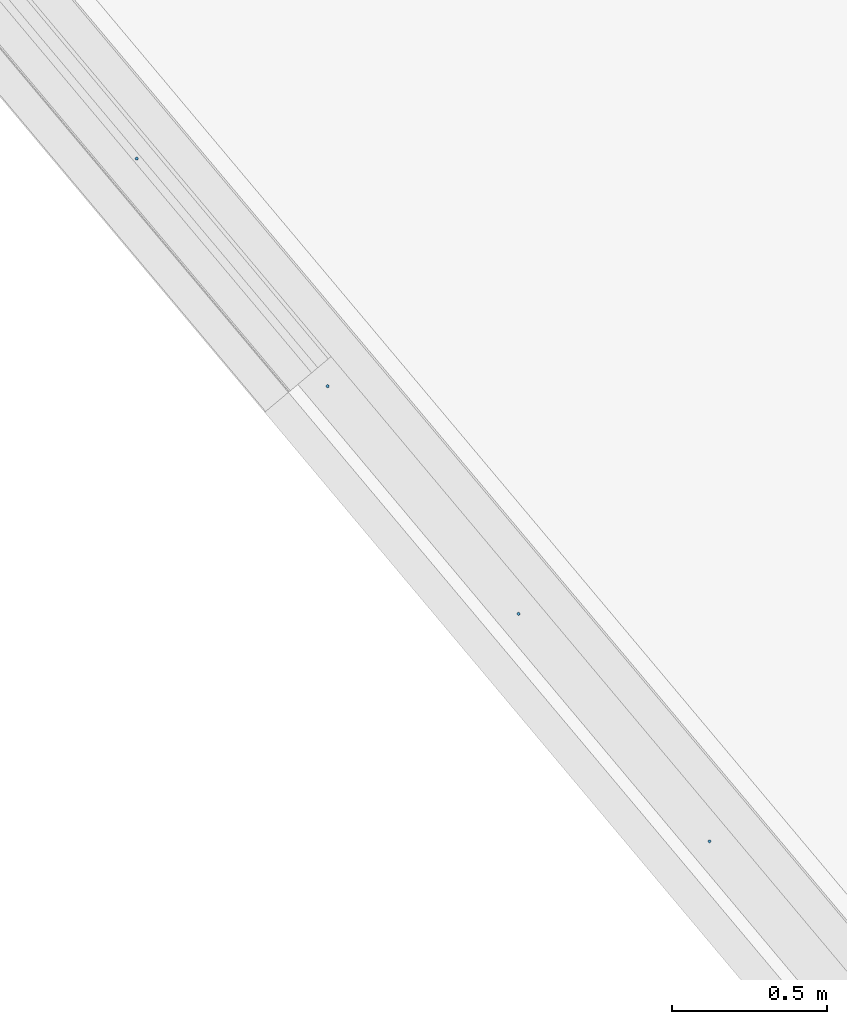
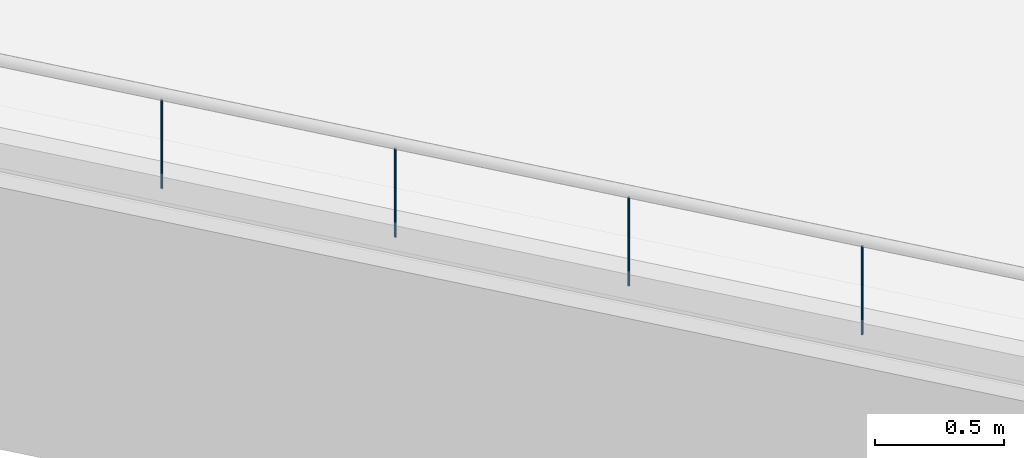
# One storey, part 9 of 321: 4 members, 1 element without a shape of its own.
"""IFC2X3 building model written with IfcOpenShell, lengths in millimetres."""

from ifc_helpers import new_model, entity, si_unit, converted_unit, derived_unit, money_unit, direction, frame, origin_with_axes, place, context, subcontext, project, spatial, faceted_brep, source, transform, mapped, material, type_object, type_shapes, element, aggregate, save


model = new_model("IFC2X3")

# Units and contexts
model_context = context("Model", 3, precision=0.01, world=origin_with_axes(), true_north=direction((0.0, 1.0)))
plan_context = context("Plan", 3, precision=0.01, world=origin_with_axes(), true_north=direction((0.0, 1.0)))
body_context = subcontext(model_context, "Body", "Model", "MODEL_VIEW")
ifc_project = project(units=[si_unit("LENGTHUNIT", "METRE", prefix="MILLI"), si_unit("AREAUNIT", "SQUARE_METRE"), si_unit("VOLUMEUNIT", "CUBIC_METRE"), converted_unit("PLANEANGLEUNIT", "DEGREE", entity("IfcPlaneAngleMeasure", 0.0174532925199), si_unit("PLANEANGLEUNIT", "RADIAN"), dimensions=[0, 0, 0, 0, 0, 0, 0]), money_unit("EUR"), converted_unit("TIMEUNIT", "Year", entity("IfcTimeMeasure", 31556926.0), si_unit("TIMEUNIT", "SECOND"), dimensions=[0, 0, 1, 0, 0, 0, 0]), si_unit("MASSUNIT", "GRAM", prefix="KILO"), si_unit("THERMODYNAMICTEMPERATUREUNIT", "DEGREE_CELSIUS"), si_unit("LUMINOUSINTENSITYUNIT", "LUMEN"), si_unit("ENERGYUNIT", "JOULE", prefix="MEGA"), derived_unit("THERMALCONDUCTANCEUNIT", [(si_unit("POWERUNIT", "WATT"), 1), (si_unit("LENGTHUNIT", "METRE"), -1), (si_unit("THERMODYNAMICTEMPERATUREUNIT", "KELVIN"), -1)]), derived_unit("SPECIFICHEATCAPACITYUNIT", [(si_unit("ENERGYUNIT", "JOULE"), 1), (si_unit("MASSUNIT", "GRAM", prefix="KILO"), -1), (si_unit("THERMODYNAMICTEMPERATUREUNIT", "KELVIN"), -1)]), derived_unit("MASSDENSITYUNIT", [(si_unit("MASSUNIT", "GRAM", prefix="KILO"), 1), (si_unit("VOLUMEUNIT", "CUBIC_METRE"), -1)])], contexts=[model_context, plan_context])

# Site, building, storey
site_placement = place(None, origin_with_axes())
site = spatial("IfcSite", under=ifc_project, at=site_placement, Name="Fortuinstraat Woensdrecht", CompositionType="ELEMENT")
building_placement = place(site_placement, origin_with_axes())
building = spatial("IfcBuilding", under=site, at=building_placement, Name="IKC Fortuna", CompositionType="ELEMENT")
storey_placement = place(building_placement, frame((0.0, 0.0, 4000.0), z_axis=(0.0, 0.0, 1.0), x_axis=(1.0, 0.0, 0.0)))
storey = spatial("IfcBuildingStorey", under=building, at=storey_placement, Name="01 eerste verdieping", CompositionType="ELEMENT", Elevation=4000.0)

# Railing, members
railing_type = type_object("IfcRailingType", Name="Railing Type", PredefinedType="NOTDEFINED")
railing_placement = place(storey_placement, frame((4151.56334028, 3601.06192057, 2353.5), z_axis=(0.0, 0.0, 1.0), x_axis=(1.0, 0.0, 0.0)))
railing = element("IfcRailing", 1, at=railing_placement, inside=storey, type_object=railing_type, Name="34_Reling_Reling vide", PredefinedType="NOTDEFINED")
ifc_material = material(Name="Metaal - Staal AFW")
member_type = type_object("IfcMemberType", Name="IfcMember", PredefinedType="MEMBER")
shared_shape = source(origin_with_axes(), body_context, "Body", "Brep", [
    faceted_brep([(0.0, -5.0, 0.0), (0.868240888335, -4.92403876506, 0.0), (0.868240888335, -4.92403876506, 418.5), (0.0, -5.0, 418.5), (-0.868240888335, -4.92403876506, 0.0), (-1.71010071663, -4.69846310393, 0.0), (-2.5, -4.33012701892, 0.0), (-3.21393804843, -3.83022221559, 0.0), (-3.83022221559, -3.21393804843, 0.0), (-4.33012701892, -2.5, 0.0), (-4.69846310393, -1.71010071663, 0.0), (-4.92403876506, -0.868240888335, 0.0), (-5.0, 0.0, 0.0), (-4.92403876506, 0.868240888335, 0.0), (-4.69846310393, 1.71010071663, 0.0), (-4.33012701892, 2.5, 0.0), (-3.83022221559, 3.21393804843, 0.0), (-3.21393804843, 3.83022221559, 0.0), (-2.5, 4.33012701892, 0.0), (-1.71010071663, 4.69846310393, 0.0), (-0.868240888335, 4.92403876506, 0.0), (0.0, 5.0, 0.0), (0.868240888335, 4.92403876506, 0.0), (1.71010071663, 4.69846310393, 0.0), (2.5, 4.33012701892, 0.0), (3.21393804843, 3.83022221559, 0.0), (3.83022221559, 3.21393804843, 0.0), (4.33012701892, 2.5, 0.0), (4.69846310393, 1.71010071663, 0.0), (4.92403876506, 0.868240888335, 0.0), (5.0, 0.0, 0.0), (4.92403876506, -0.868240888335, 0.0), (4.69846310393, -1.71010071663, 0.0), (4.33012701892, -2.5, 0.0), (3.83022221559, -3.21393804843, 0.0), (3.21393804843, -3.83022221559, 0.0), (2.5, -4.33012701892, 0.0), (1.71010071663, -4.69846310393, 0.0), (1.71010071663, -4.69846310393, 418.5), (2.5, -4.33012701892, 418.5), (3.21393804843, -3.83022221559, 418.5), (3.83022221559, -3.21393804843, 418.5), (4.33012701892, -2.5, 418.5), (4.69846310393, -1.71010071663, 418.5), (4.92403876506, -0.868240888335, 418.5), (5.0, 0.0, 418.5), (4.92403876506, 0.868240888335, 418.5), (4.69846310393, 1.71010071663, 418.5), (4.33012701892, 2.5, 418.5), (3.83022221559, 3.21393804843, 418.5), (3.21393804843, 3.83022221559, 418.5), (2.5, 4.33012701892, 418.5), (1.71010071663, 4.69846310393, 418.5), (0.868240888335, 4.92403876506, 418.5), (0.0, 5.0, 418.5), (-0.868240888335, 4.92403876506, 418.5), (-1.71010071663, 4.69846310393, 418.5), (-2.5, 4.33012701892, 418.5), (-3.21393804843, 3.83022221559, 418.5), (-3.83022221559, 3.21393804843, 418.5), (-4.33012701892, 2.5, 418.5), (-4.69846310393, 1.71010071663, 418.5), (-4.92403876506, 0.868240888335, 418.5), (-5.0, 0.0, 418.5), (-4.92403876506, -0.868240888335, 418.5), (-4.69846310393, -1.71010071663, 418.5), (-4.33012701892, -2.5, 418.5), (-3.83022221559, -3.21393804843, 418.5), (-3.21393804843, -3.83022221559, 418.5), (-2.5, -4.33012701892, 418.5), (-1.71010071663, -4.69846310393, 418.5), (-0.868240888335, -4.92403876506, 418.5)], [[[0, 1, 2, 3]], [[0, 4, 5, 6, 7, 8, 9, 10, 11, 12, 13, 14, 15, 16, 17, 18, 19, 20, 21, 22, 23, 24, 25, 26, 27, 28, 29, 30, 31, 32, 33, 34, 35, 36, 37, 1]], [[1, 37, 38, 2]], [[3, 2, 38, 39, 40, 41, 42, 43, 44, 45, 46, 47, 48, 49, 50, 51, 52, 53, 54, 55, 56, 57, 58, 59, 60, 61, 62, 63, 64, 65, 66, 67, 68, 69, 70, 71]], [[4, 0, 3, 71]], [[5, 4, 71, 70]], [[6, 5, 70, 69]], [[7, 6, 69, 68]], [[8, 7, 68, 67]], [[9, 8, 67, 66]], [[10, 9, 66, 65]], [[11, 10, 65, 64]], [[12, 11, 64, 63]], [[13, 12, 63, 62]], [[14, 13, 62, 61]], [[15, 14, 61, 60]], [[16, 15, 60, 59]], [[17, 16, 59, 58]], [[18, 17, 58, 57]], [[19, 18, 57, 56]], [[20, 19, 56, 55]], [[21, 20, 55, 54]], [[22, 21, 54, 53]], [[23, 22, 53, 52]], [[24, 23, 52, 51]], [[25, 24, 51, 50]], [[26, 25, 50, 49]], [[27, 26, 49, 48]], [[28, 27, 48, 47]], [[29, 28, 47, 46]], [[30, 29, 46, 45]], [[31, 30, 45, 44]], [[32, 31, 44, 43]], [[33, 32, 43, 42]], [[34, 33, 42, 41]], [[35, 34, 41, 40]], [[36, 35, 40, 39]], [[37, 36, 39, 38]]]),
])
type_shapes(member_type, [shared_shape])
member_1_placement = place(railing_placement, frame((-549.737170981, -8002.45186428, -18.5), z_axis=(0.0, 0.0, 1.0), x_axis=(1.0, 0.0, 0.0)))
member_1 = element("IfcMember", 2, at=member_1_placement, type_object=member_type, material=ifc_material, Name="_Onderdeel_Spijlen-x", ObjectType="MEMBER", context=body_context, shape_type="MappedRepresentation", body=[
    mapped(shared_shape, transform((0.0, 0.0, 0.0), x_axis=(-0.766044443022, -0.642787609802, 0.0), y_axis=(0.642787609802, -0.766044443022, 0.0), z_axis=(0.0, 0.0, 1.0))),
])
member_2_placement = place(railing_placement, frame((67.0035645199, -8737.45485129, -18.5), z_axis=(0.0, 0.0, 1.0), x_axis=(1.0, 0.0, 0.0)))
member_2 = element("IfcMember", 3, at=member_2_placement, type_object=member_type, material=ifc_material, Name="_Onderdeel_Spijlen-x", ObjectType="MEMBER", context=body_context, shape_type="MappedRepresentation", body=[
    mapped(shared_shape, transform((0.0, 0.0, 0.0), x_axis=(-0.766044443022, -0.642787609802, 0.0), y_axis=(0.642787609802, -0.766044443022, 0.0), z_axis=(0.0, 0.0, 1.0))),
])
member_3_placement = place(railing_placement, frame((683.744300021, -9472.4578383, -18.5), z_axis=(0.0, 0.0, 1.0), x_axis=(1.0, 0.0, 0.0)))
member_3 = element("IfcMember", 4, at=member_3_placement, type_object=member_type, material=ifc_material, Name="_Onderdeel_Spijlen-x", ObjectType="MEMBER", context=body_context, shape_type="MappedRepresentation", body=[
    mapped(shared_shape, transform((0.0, 0.0, 0.0), x_axis=(-0.766044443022, -0.642787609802, 0.0), y_axis=(0.642787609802, -0.766044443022, 0.0), z_axis=(0.0, 0.0, 1.0))),
])
member_4_placement = place(railing_placement, frame((1300.48503552, -10207.4608253, -18.5), z_axis=(0.0, 0.0, 1.0), x_axis=(1.0, 0.0, 0.0)))
member_4 = element("IfcMember", 5, at=member_4_placement, type_object=member_type, material=ifc_material, Name="_Onderdeel_Spijlen-x", ObjectType="MEMBER", context=body_context, shape_type="MappedRepresentation", body=[
    mapped(shared_shape, transform((0.0, 0.0, 0.0), x_axis=(-0.766044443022, -0.642787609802, 0.0), y_axis=(0.642787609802, -0.766044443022, 0.0), z_axis=(0.0, 0.0, 1.0))),
])
aggregate(railing, [member_1, member_2, member_3, member_4])

save(model, "model.ifc")
